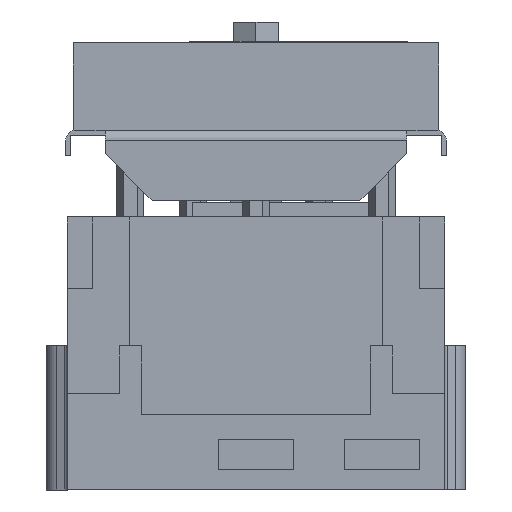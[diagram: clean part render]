
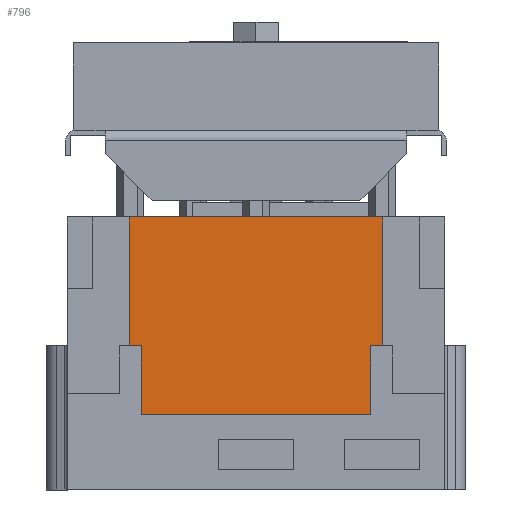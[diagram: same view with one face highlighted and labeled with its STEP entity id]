
A CAD part, front view. The second image highlights one B-rep face of the part: STEP entity #796.
In plain terms, the highlighted planar face has unit normal (0, -1, 0).
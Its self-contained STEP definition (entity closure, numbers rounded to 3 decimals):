
#54 = ORIENTED_EDGE ( 'NONE', *, *, #1583, .T. ) ;
#92 = LINE ( 'NONE', #4827, #6556 ) ;
#581 = VERTEX_POINT ( 'NONE', #2452 ) ;
#650 = ORIENTED_EDGE ( 'NONE', *, *, #2680, .F. ) ;
#731 = CARTESIAN_POINT ( 'NONE',  ( -188., 48.3, 86. ) ) ;
#737 = VECTOR ( 'NONE', #6137, 1000. ) ;
#796 = ADVANCED_FACE ( 'NONE', ( #1176 ), #2613, .T. ) ;
#1120 = LINE ( 'NONE', #6514, #4258 ) ;
#1176 = FACE_OUTER_BOUND ( 'NONE', #6684, .T. ) ;
#1281 = DIRECTION ( 'NONE',  ( 0., 0., -1. ) ) ;
#1583 = EDGE_CURVE ( 'NONE', #7532, #6994, #5933, .T. ) ;
#1924 = DIRECTION ( 'NONE',  ( 0., 0., -1. ) ) ;
#1958 = CARTESIAN_POINT ( 'NONE',  ( -37., 48.3, 171.375 ) ) ;
#2452 = CARTESIAN_POINT ( 'NONE',  ( -180.8, 48.3, 86. ) ) ;
#2584 = DIRECTION ( 'NONE',  ( 0., 0., 1. ) ) ;
#2613 = PLANE ( 'NONE',  #5059 ) ;
#2680 = EDGE_CURVE ( 'NONE', #3674, #6994, #6626, .T. ) ;
#2681 = LINE ( 'NONE', #6848, #5821 ) ;
#2759 = LINE ( 'NONE', #5675, #7589 ) ;
#3083 = VECTOR ( 'NONE', #1924, 1000. ) ;
#3099 = DIRECTION ( 'NONE',  ( 0., 0., -1. ) ) ;
#3101 = EDGE_CURVE ( 'NONE', #7268, #6759, #4558, .T. ) ;
#3217 = EDGE_CURVE ( 'NONE', #3443, #7472, #3758, .T. ) ;
#3250 = DIRECTION ( 'NONE',  ( 0., 0., -1. ) ) ;
#3443 = VERTEX_POINT ( 'NONE', #5077 ) ;
#3576 = ORIENTED_EDGE ( 'NONE', *, *, #5221, .F. ) ;
#3674 = VERTEX_POINT ( 'NONE', #4042 ) ;
#3758 = LINE ( 'NONE', #1958, #5447 ) ;
#3945 = EDGE_CURVE ( 'NONE', #6759, #581, #2681, .T. ) ;
#4042 = CARTESIAN_POINT ( 'NONE',  ( -44.2, 48.3, 86. ) ) ;
#4240 = CARTESIAN_POINT ( 'NONE',  ( -188., 48.3, 45. ) ) ;
#4258 = VECTOR ( 'NONE', #7161, 1000. ) ;
#4453 = CARTESIAN_POINT ( 'NONE',  ( 0., 48.3, 0. ) ) ;
#4558 = LINE ( 'NONE', #5607, #7718 ) ;
#4827 = CARTESIAN_POINT ( 'NONE',  ( -44.2, 48.3, 86. ) ) ;
#4909 = CARTESIAN_POINT ( 'NONE',  ( -37., 48.3, 162.85 ) ) ;
#4950 = DIRECTION ( 'NONE',  ( 1., 0., 0. ) ) ;
#4994 = CARTESIAN_POINT ( 'NONE',  ( -180.8, 48.3, 45. ) ) ;
#5059 = AXIS2_PLACEMENT_3D ( 'NONE', #4453, #7017, #3250 ) ;
#5077 = CARTESIAN_POINT ( 'NONE',  ( -37., 48.3, 86. ) ) ;
#5221 = EDGE_CURVE ( 'NONE', #7268, #7472, #1120, .T. ) ;
#5326 = EDGE_CURVE ( 'NONE', #581, #7532, #2759, .T. ) ;
#5447 = VECTOR ( 'NONE', #2584, 1000. ) ;
#5462 = DIRECTION ( 'NONE',  ( 1., 0., 0. ) ) ;
#5562 = ORIENTED_EDGE ( 'NONE', *, *, #3945, .T. ) ;
#5607 = CARTESIAN_POINT ( 'NONE',  ( -188., 48.3, 171.375 ) ) ;
#5675 = CARTESIAN_POINT ( 'NONE',  ( -180.8, 48.3, 136.071 ) ) ;
#5821 = VECTOR ( 'NONE', #4950, 1000. ) ;
#5933 = LINE ( 'NONE', #4240, #737 ) ;
#6137 = DIRECTION ( 'NONE',  ( 1., 0., 0. ) ) ;
#6306 = ORIENTED_EDGE ( 'NONE', *, *, #3101, .T. ) ;
#6514 = CARTESIAN_POINT ( 'NONE',  ( -225., 48.3, 162.85 ) ) ;
#6556 = VECTOR ( 'NONE', #5462, 1000. ) ;
#6591 = CARTESIAN_POINT ( 'NONE',  ( -188., 48.3, 162.85 ) ) ;
#6626 = LINE ( 'NONE', #6952, #3083 ) ;
#6644 = CARTESIAN_POINT ( 'NONE',  ( -44.2, 48.3, 45. ) ) ;
#6684 = EDGE_LOOP ( 'NONE', ( #54, #650, #7673, #7044, #3576, #6306, #5562, #6971 ) ) ;
#6759 = VERTEX_POINT ( 'NONE', #731 ) ;
#6848 = CARTESIAN_POINT ( 'NONE',  ( 0., 48.3, 86. ) ) ;
#6952 = CARTESIAN_POINT ( 'NONE',  ( -44.2, 48.3, 136.071 ) ) ;
#6971 = ORIENTED_EDGE ( 'NONE', *, *, #5326, .T. ) ;
#6994 = VERTEX_POINT ( 'NONE', #6644 ) ;
#7017 = DIRECTION ( 'NONE',  ( 0., -1., 0. ) ) ;
#7044 = ORIENTED_EDGE ( 'NONE', *, *, #3217, .T. ) ;
#7080 = EDGE_CURVE ( 'NONE', #3674, #3443, #92, .T. ) ;
#7161 = DIRECTION ( 'NONE',  ( 1., 0., 0. ) ) ;
#7268 = VERTEX_POINT ( 'NONE', #6591 ) ;
#7472 = VERTEX_POINT ( 'NONE', #4909 ) ;
#7532 = VERTEX_POINT ( 'NONE', #4994 ) ;
#7589 = VECTOR ( 'NONE', #1281, 1000. ) ;
#7673 = ORIENTED_EDGE ( 'NONE', *, *, #7080, .T. ) ;
#7718 = VECTOR ( 'NONE', #3099, 1000. ) ;
